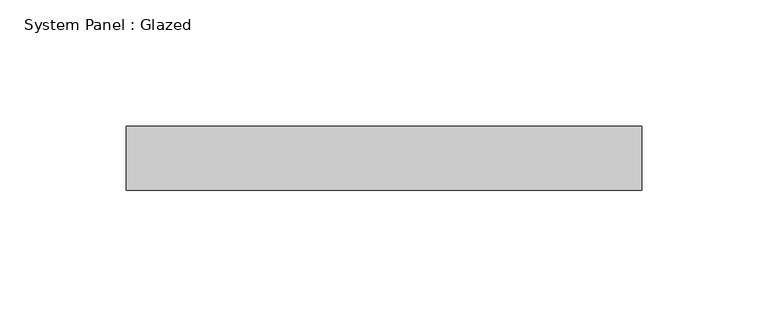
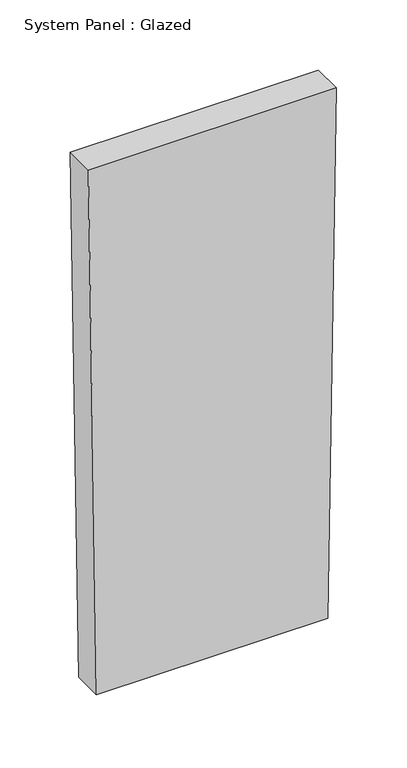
"""IFC4 building model written with IfcOpenShell, lengths in millimetres: plate geometry, System Panel : Glazed."""

from ifc_helpers import new_model, si_unit, frame, origin, place, context, project, spatial, polyline, outline, extrude, source, transform, mapped, element, save


def system_panel_glazed_a2ddec3e(model_context):
    return source(origin(), model_context, "Body", "SweptSolid", [
        extrude(outline(polyline([(0.0, -95.1349711), (0.0, 95.1349711), (458.5517789, 102.0326343), (458.5517789, -102.0326343), (0.0, -95.1349711)])), frame((0.0, 19.05, 0.0), z_axis=(0.0, 1.0, 0.0), x_axis=(0.0, 0.0, 1.0)), (0.0, 0.0, 1.0), 25.4),
    ])


if __name__ == "__main__":
    model = new_model("IFC4")
    model_context = context("Model", 3, world=origin())
    ifc_project = project(units=[si_unit("LENGTHUNIT", "METRE", prefix="MILLI")], contexts=[model_context])
    site = spatial("IfcSite", under=ifc_project)
    building = spatial("IfcBuilding", under=site)
    placement = place(None, origin())
    system_panel_glazed_shape = system_panel_glazed_a2ddec3e(model_context)
    element("IfcPlate", 1, ObjectType="System Panel : Glazed", at=placement, inside=building, context=model_context, shape_type="MappedRepresentation", body=[
        mapped(system_panel_glazed_shape, transform((0.0, 0.0, 0.0), x_axis=(1.0, 0.0, 0.0), y_axis=(0.0, 1.0, 0.0), z_axis=(0.0, 0.0, 1.0))),
    ])
    save(model, "model.ifc")
